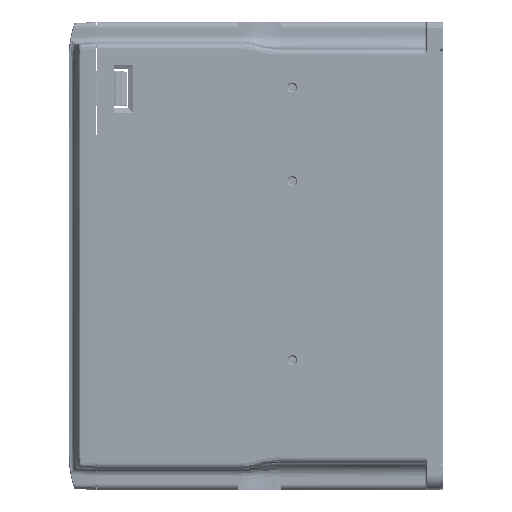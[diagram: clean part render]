
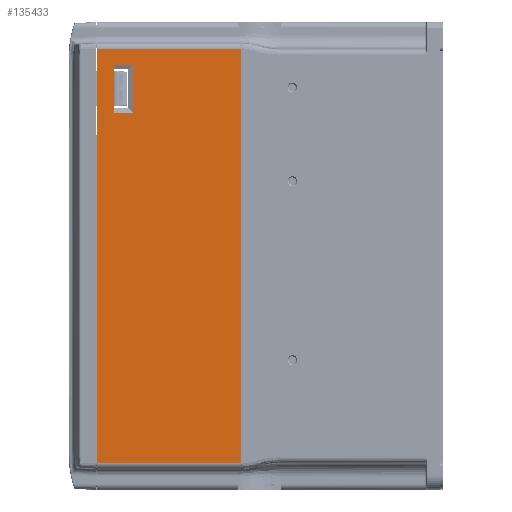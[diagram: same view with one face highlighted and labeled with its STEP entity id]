
A CAD part, left-side view. The second image highlights one B-rep face of the part: STEP entity #135433.
In plain terms, the highlighted planar face has unit normal (-1, 0, 0).
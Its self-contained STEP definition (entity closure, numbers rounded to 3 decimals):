
#97842=DIRECTION('',(0.,0.,1.));
#97843=VECTOR('',#97842,177.);
#97844=CARTESIAN_POINT('',(-65.,-30.8,-88.5));
#97845=LINE('',#97844,#97843);
#105343=DIRECTION('',(0.,1.,0.));
#105344=VECTOR('',#105343,61.7);
#105345=CARTESIAN_POINT('',(-65.,-30.8,88.5));
#105346=LINE('',#105345,#105344);
#105357=DIRECTION('',(0.,0.,1.));
#105358=VECTOR('',#105357,177.);
#105359=CARTESIAN_POINT('',(-65.,30.9,-88.5));
#105360=LINE('',#105359,#105358);
#105371=DIRECTION('',(0.,-1.,0.));
#105372=VECTOR('',#105371,61.7);
#105373=CARTESIAN_POINT('',(-65.,30.9,-88.5));
#105374=LINE('',#105373,#105372);
#105413=DIRECTION('',(0.,0.,-1.));
#105414=VECTOR('',#105413,20.053);
#105415=CARTESIAN_POINT('',(-65.,15.5,81.526));
#105416=LINE('',#105415,#105414);
#105443=CARTESIAN_POINT('',(-65.,15.724,81.75));
#105444=CARTESIAN_POINT('',(-65.,15.575,81.75));
#105445=CARTESIAN_POINT('',(-65.,15.5,81.675));
#105446=CARTESIAN_POINT('',(-65.,15.5,81.526));
#105514=DIRECTION('',(0.,0.,1.));
#105515=VECTOR('',#105514,18.264);
#105516=CARTESIAN_POINT('',(-65.,23.7,62.368));
#105517=LINE('',#105516,#105515);
#105537=CARTESIAN_POINT('',(-65.,23.7,80.632));
#105538=CARTESIAN_POINT('',(-65.,23.7,80.902));
#105539=CARTESIAN_POINT('',(-65.,23.646,81.252));
#105540=CARTESIAN_POINT('',(-65.,23.46,81.606));
#105541=CARTESIAN_POINT('',(-65.,23.335,81.75));
#105542=CARTESIAN_POINT('',(-65.,23.2,81.75));
#105547=DIRECTION('',(0.,-1.,0.));
#105548=VECTOR('',#105547,7.476);
#105549=CARTESIAN_POINT('',(-65.,23.2,81.75));
#105550=LINE('',#105549,#105548);
#105737=CARTESIAN_POINT('',(-65.,15.5,61.474));
#105738=CARTESIAN_POINT('',(-65.,15.5,61.325));
#105739=CARTESIAN_POINT('',(-65.,15.575,61.25));
#105740=CARTESIAN_POINT('',(-65.,15.724,61.25));
#105752=DIRECTION('',(0.,1.,0.));
#105753=VECTOR('',#105752,7.476);
#105754=CARTESIAN_POINT('',(-65.,15.724,61.25));
#105755=LINE('',#105754,#105753);
#105766=CARTESIAN_POINT('',(-65.,23.2,61.25));
#105767=CARTESIAN_POINT('',(-65.,23.335,61.25));
#105768=CARTESIAN_POINT('',(-65.,23.46,61.394));
#105769=CARTESIAN_POINT('',(-65.,23.646,61.748));
#105770=CARTESIAN_POINT('',(-65.,23.7,62.098));
#105771=CARTESIAN_POINT('',(-65.,23.7,62.368));
#125573=CARTESIAN_POINT('',(-65.,30.9,88.5));
#125574=VERTEX_POINT('',#125573);
#125575=CARTESIAN_POINT('',(-65.,30.9,-88.5));
#125576=VERTEX_POINT('',#125575);
#125650=CARTESIAN_POINT('',(-65.,-30.8,-88.5));
#125651=VERTEX_POINT('',#125650);
#125652=CARTESIAN_POINT('',(-65.,-30.8,88.5));
#125653=VERTEX_POINT('',#125652);
#128139=CARTESIAN_POINT('',(-65.,15.5,81.526));
#128140=CARTESIAN_POINT('',(-65.,15.5,61.474));
#128141=VERTEX_POINT('',#128139);
#128142=VERTEX_POINT('',#128140);
#128143=VERTEX_POINT('',#105443);
#128144=CARTESIAN_POINT('',(-65.,23.2,81.75));
#128145=VERTEX_POINT('',#128144);
#128146=VERTEX_POINT('',#105537);
#128147=CARTESIAN_POINT('',(-65.,23.7,62.368));
#128148=VERTEX_POINT('',#128147);
#128149=VERTEX_POINT('',#105766);
#128150=CARTESIAN_POINT('',(-65.,15.724,61.25));
#128151=VERTEX_POINT('',#128150);
#135403=CARTESIAN_POINT('',(-65.,-32.9,-100.));
#135404=DIRECTION('',(-1.,0.,0.));
#135405=DIRECTION('',(0.,0.,1.));
#135406=AXIS2_PLACEMENT_3D('',#135403,#135404,#135405);
#135407=PLANE('',#135406);
#135408=ORIENTED_EDGE('',*,*,#130488,.F.);
#135410=ORIENTED_EDGE('',*,*,#135409,.F.);
#135411=ORIENTED_EDGE('',*,*,#130359,.T.);
#135412=ORIENTED_EDGE('',*,*,#135396,.F.);
#135413=EDGE_LOOP('',(#135408,#135410,#135411,#135412));
#135414=FACE_OUTER_BOUND('',#135413,.F.);
#135416=ORIENTED_EDGE('',*,*,#135415,.F.);
#135418=ORIENTED_EDGE('',*,*,#135417,.F.);
#135420=ORIENTED_EDGE('',*,*,#135419,.F.);
#135422=ORIENTED_EDGE('',*,*,#135421,.F.);
#135424=ORIENTED_EDGE('',*,*,#135423,.F.);
#135426=ORIENTED_EDGE('',*,*,#135425,.F.);
#135428=ORIENTED_EDGE('',*,*,#135427,.F.);
#135430=ORIENTED_EDGE('',*,*,#135429,.F.);
#135431=EDGE_LOOP('',(#135416,#135418,#135420,#135422,#135424,#135426,#135428,
#135430));
#135432=FACE_BOUND('',#135431,.F.);
#105447=B_SPLINE_CURVE_WITH_KNOTS('',3,(#105443,#105444,#105445,#105446),
.UNSPECIFIED.,.F.,.F.,(4,4),(0.,1.),.UNSPECIFIED.);
#105543=B_SPLINE_CURVE_WITH_KNOTS('',3,(#105537,#105538,#105539,#105540,#105541,
#105542),.UNSPECIFIED.,.F.,.F.,(4,1,1,4),(0.,0.5,0.75,1.),
.UNSPECIFIED.);
#105741=B_SPLINE_CURVE_WITH_KNOTS('',3,(#105737,#105738,#105739,#105740),
.UNSPECIFIED.,.F.,.F.,(4,4),(0.,1.),.UNSPECIFIED.);
#105772=B_SPLINE_CURVE_WITH_KNOTS('',3,(#105766,#105767,#105768,#105769,#105770,
#105771),.UNSPECIFIED.,.F.,.F.,(4,1,1,4),(0.,0.25,0.5,1.),
.UNSPECIFIED.);
#130359=EDGE_CURVE('',#125576,#125574,#105360,.T.);
#130488=EDGE_CURVE('',#125651,#125653,#97845,.T.);
#135396=EDGE_CURVE('',#125653,#125574,#105346,.T.);
#135409=EDGE_CURVE('',#125576,#125651,#105374,.T.);
#135415=EDGE_CURVE('',#128141,#128142,#105416,.T.);
#135417=EDGE_CURVE('',#128143,#128141,#105447,.T.);
#135419=EDGE_CURVE('',#128145,#128143,#105550,.T.);
#135421=EDGE_CURVE('',#128146,#128145,#105543,.T.);
#135423=EDGE_CURVE('',#128148,#128146,#105517,.T.);
#135425=EDGE_CURVE('',#128149,#128148,#105772,.T.);
#135427=EDGE_CURVE('',#128151,#128149,#105755,.T.);
#135429=EDGE_CURVE('',#128142,#128151,#105741,.T.);
#135433=ADVANCED_FACE('',(#135414,#135432),#135407,.T.);
